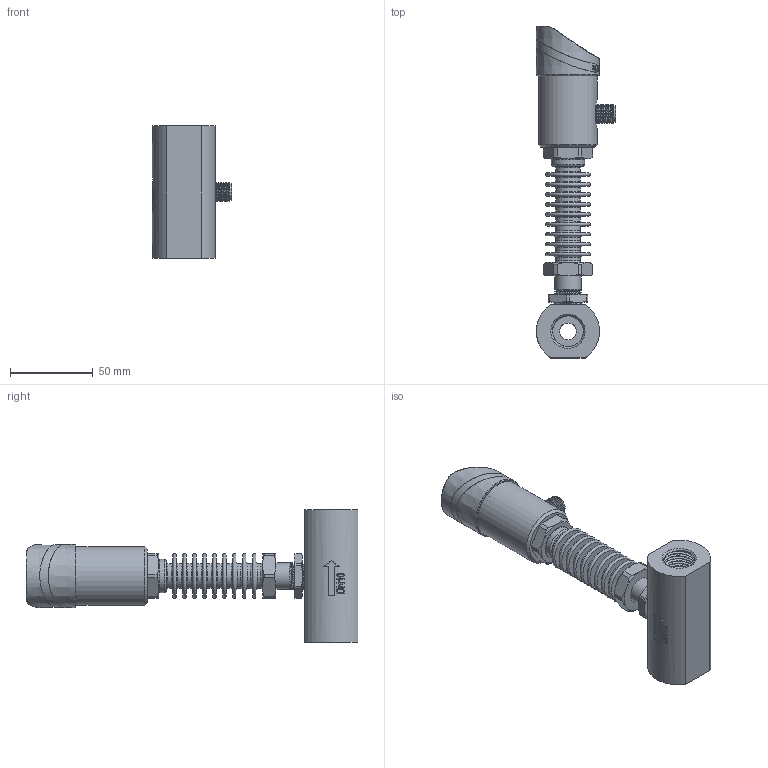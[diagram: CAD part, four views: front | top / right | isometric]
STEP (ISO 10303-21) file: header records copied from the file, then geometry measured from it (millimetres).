
FILE_DESCRIPTION( (''), '2;1');
FILE_NAME( 'QTKE_DN10_female-thread_high-temp.step', '2024-10-15T13:51:26+08:00', (''), (''), '', '', '');
FILE_SCHEMA (('AUTOMOTIVE_DESIGN { 1 0 10303 214 3 1 1 1 }'));
Products named in the file (1): QTKE DN10_female-thread_high-temp
Bounding box: 47.7 x 199.98 x 80 mm (x, y, z)
Volume: 111306.1 mm3; surface area: 61040.7 mm2
Topology: 5 solids, 7 shells, 1087 faces, 2790 edges, 1813 vertices
Faces by surface type: plane 461, cylinder 203, extrusion 169, cone 108, bspline 65, torus 60, sphere 21
Full cylindrical faces by diameter (mm): 1.689 x1, 2 x1, 2.7 x6, 3.5 x5, 12 x1, 13 x1, 15 x10, 15.9 x1, 18.631 x16, 20 x1, 23 x3, 26 x5, 31.7 x1, 32 x1, 34 x1, 34.2 x1, 35.5 x2
Entity records: 49608 total; most frequent: CARTESIAN_POINT 20906, ORIENTED_EDGE 5126, DIRECTION 4419, EDGE_CURVE 2563, VERTEX_POINT 1732, AXIS2_PLACEMENT_3D 1545, VECTOR 1329, EDGE_LOOP 1307
